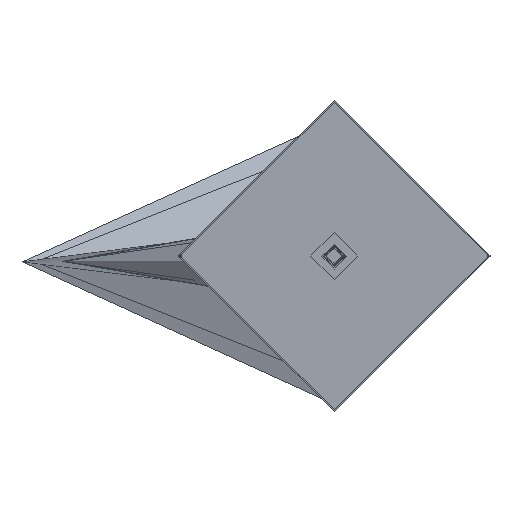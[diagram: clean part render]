
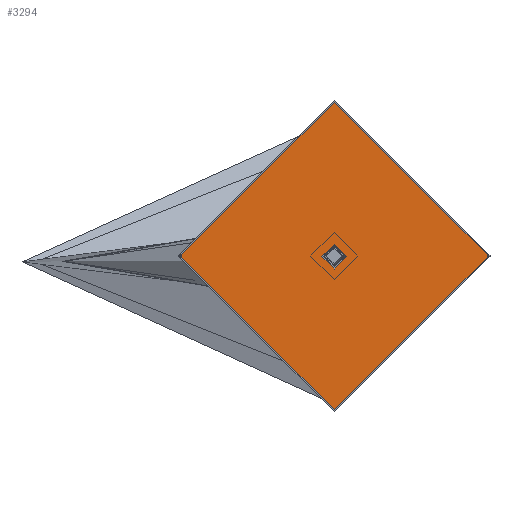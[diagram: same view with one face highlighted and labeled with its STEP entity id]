
A CAD part, top view. The second image highlights one B-rep face of the part: STEP entity #3294.
In plain terms, the highlighted planar face has unit normal (0, 0, 1).
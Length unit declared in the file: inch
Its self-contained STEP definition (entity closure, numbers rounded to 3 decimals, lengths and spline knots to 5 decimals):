
#52=FACE_BOUND('',#1139,.T.);
#345=PLANE('',#3565);
#919=FACE_OUTER_BOUND('',#1138,.T.);
#1138=EDGE_LOOP('',(#2568));
#1139=EDGE_LOOP('',(#2569));
#1318=CIRCLE('',#3560,0.2);
#1320=CIRCLE('',#3563,2.47);
#1493=VERTEX_POINT('',#7791);
#1495=VERTEX_POINT('',#7797);
#1883=EDGE_CURVE('',#1493,#1493,#1318,.T.);
#1886=EDGE_CURVE('',#1495,#1495,#1320,.F.);
#2568=ORIENTED_EDGE('',*,*,#1886,.T.);
#2569=ORIENTED_EDGE('',*,*,#1883,.T.);
#3294=ADVANCED_FACE('',(#919,#52),#345,.T.);
#3560=AXIS2_PLACEMENT_3D('',#7792,#4051,#4052);
#3563=AXIS2_PLACEMENT_3D('',#7798,#4058,#4059);
#3565=AXIS2_PLACEMENT_3D('',#7802,#4063,#4064);
#4051=DIRECTION('center_axis',(0.,0.,-1.));
#4052=DIRECTION('ref_axis',(1.,0.,0.));
#4058=DIRECTION('center_axis',(0.,0.,-1.));
#4059=DIRECTION('ref_axis',(1.,0.,0.));
#4063=DIRECTION('center_axis',(0.,0.,1.));
#4064=DIRECTION('ref_axis',(1.,0.,0.));
#7791=CARTESIAN_POINT('',(-0.19813,-0.00889,48.83));
#7792=CARTESIAN_POINT('Origin',(0.00187,-0.00889,
48.83));
#7797=CARTESIAN_POINT('',(-2.47,0.,48.83));
#7798=CARTESIAN_POINT('Origin',(0.,0.,48.83));
#7802=CARTESIAN_POINT('Origin',(0.,0.,48.83));
